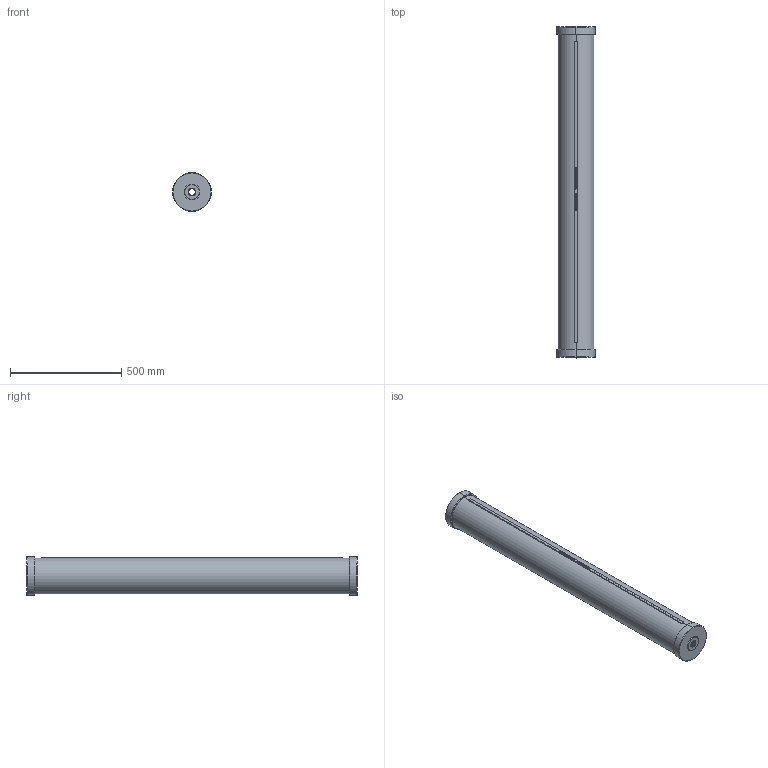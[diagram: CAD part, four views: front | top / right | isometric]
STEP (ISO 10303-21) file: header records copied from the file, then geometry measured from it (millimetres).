
FILE_DESCRIPTION (( 'STEP AP214' ), '1' );
FILE_NAME ('25.0LTR-C-11-00.STEP', '2025-06-24T08:29:06', ( '' ), ( '' ), 'SwSTEP 2.0', 'SolidWorks 2024', '' );
FILE_SCHEMA (( 'AUTOMOTIVE_DESIGN' ));
Length unit declared in the file: millimetre
Products named in the file (1): 25.0LTR-C-11-00
Bounding box: 175 x 1489 x 175 mm (x, y, z)
Volume: 3332597 mm3; surface area: 1633789.5 mm2
Topology: 4 solids, 4 shells, 595 faces, 1562 edges, 1036 vertices
Faces by surface type: plane 306, bspline 229, cylinder 40, cone 16, torus 4
Entity records: 38653 total; most frequent: CARTESIAN_POINT 19059, ORIENTED_EDGE 3124, DIRECTION 1838, EDGE_CURVE 1562, VERTEX_POINT 1036, VECTOR 984, LINE 984, EDGE_LOOP 662
